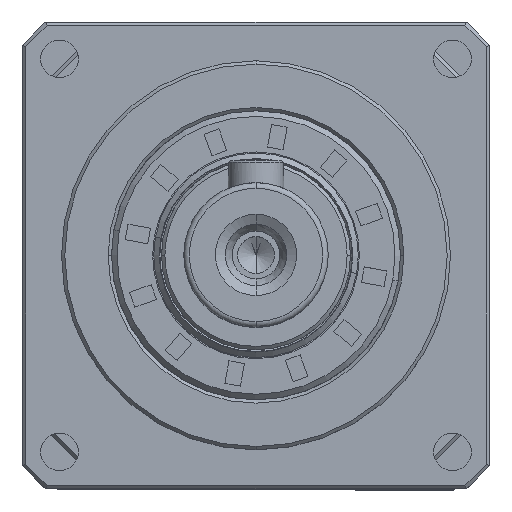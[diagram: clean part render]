
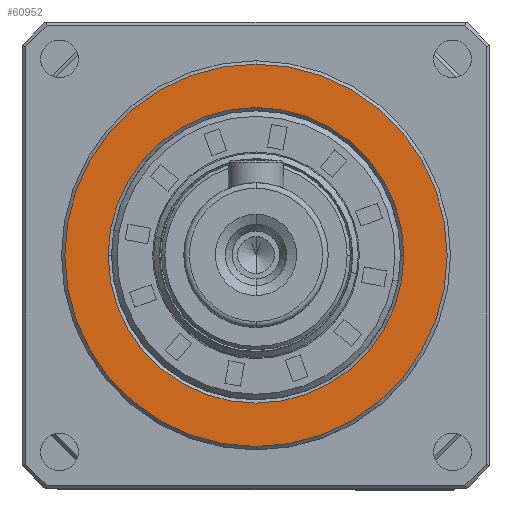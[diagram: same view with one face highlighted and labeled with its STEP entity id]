
A CAD part, top view. The second image highlights one B-rep face of the part: STEP entity #60952.
In plain terms, the highlighted planar face has unit normal (0, 0, 1).
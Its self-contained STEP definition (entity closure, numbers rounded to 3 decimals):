
#8638 = VERTEX_POINT ( 'NONE', #71444 ) ;
#11495 = CIRCLE ( 'NONE', #66649, 13.3 ) ;
#11666 = VERTEX_POINT ( 'NONE', #42926 ) ;
#14802 = CARTESIAN_POINT ( 'NONE',  ( -10.743, 5.01, 58.25 ) ) ;
#16192 = DIRECTION ( 'NONE',  ( 0., 0., -1. ) ) ;
#18509 = ORIENTED_EDGE ( 'NONE', *, *, #24888, .T. ) ;
#18707 = VERTEX_POINT ( 'NONE', #74229 ) ;
#21494 = DIRECTION ( 'NONE',  ( 1., 0., 0. ) ) ;
#21530 = ORIENTED_EDGE ( 'NONE', *, *, #54174, .F. ) ;
#23179 = EDGE_LOOP ( 'NONE', ( #57702, #21530 ) ) ;
#24888 = EDGE_CURVE ( 'NONE', #8638, #11666, #11495, .T. ) ;
#26899 = DIRECTION ( 'NONE',  ( 0., 0., -1. ) ) ;
#32947 = AXIS2_PLACEMENT_3D ( 'NONE', #66736, #26899, #73456 ) ;
#35533 = CARTESIAN_POINT ( 'NONE',  ( -10.743, 5.01, 58.25 ) ) ;
#36092 = DIRECTION ( 'NONE',  ( 0., 0., -1. ) ) ;
#36385 = EDGE_LOOP ( 'NONE', ( #18509, #47303 ) ) ;
#37095 = CARTESIAN_POINT ( 'NONE',  ( -10.743, -12.19, 58.25 ) ) ;
#42206 = DIRECTION ( 'NONE',  ( 1., 0., 0. ) ) ;
#42926 = CARTESIAN_POINT ( 'NONE',  ( -24.043, 5.01, 58.25 ) ) ;
#43119 = EDGE_CURVE ( 'NONE', #11666, #8638, #66225, .T. ) ;
#43718 = AXIS2_PLACEMENT_3D ( 'NONE', #35533, #82023, #42206 ) ;
#45402 = FACE_BOUND ( 'NONE', #36385, .T. ) ;
#46190 = AXIS2_PLACEMENT_3D ( 'NONE', #14802, #61319, #21494 ) ;
#47303 = ORIENTED_EDGE ( 'NONE', *, *, #43119, .T. ) ;
#48597 = PLANE ( 'NONE',  #43718 ) ;
#54174 = EDGE_CURVE ( 'NONE', #76778, #18707, #86350, .T. ) ;
#56067 = CARTESIAN_POINT ( 'NONE',  ( -10.743, 5.01, 58.25 ) ) ;
#56329 = EDGE_CURVE ( 'NONE', #18707, #76778, #77553, .T. ) ;
#57702 = ORIENTED_EDGE ( 'NONE', *, *, #56329, .F. ) ;
#60952 = ADVANCED_FACE ( 'NONE', ( #63065, #45402 ), #48597, .T. ) ;
#61319 = DIRECTION ( 'NONE',  ( 0., 0., -1. ) ) ;
#62733 = DIRECTION ( 'NONE',  ( 1., 0., 0. ) ) ;
#63065 = FACE_OUTER_BOUND ( 'NONE', #23179, .T. ) ;
#66225 = CIRCLE ( 'NONE', #46190, 13.3 ) ;
#66649 = AXIS2_PLACEMENT_3D ( 'NONE', #56067, #16192, #62733 ) ;
#66736 = CARTESIAN_POINT ( 'NONE',  ( -10.743, 5.01, 58.25 ) ) ;
#71444 = CARTESIAN_POINT ( 'NONE',  ( 2.557, 5.01, 58.25 ) ) ;
#73456 = DIRECTION ( 'NONE',  ( 0., 1., 0. ) ) ;
#74229 = CARTESIAN_POINT ( 'NONE',  ( -10.743, 22.21, 58.25 ) ) ;
#75925 = CARTESIAN_POINT ( 'NONE',  ( -10.743, 5.01, 58.25 ) ) ;
#76778 = VERTEX_POINT ( 'NONE', #37095 ) ;
#77553 = CIRCLE ( 'NONE', #32947, 17.2 ) ;
#82023 = DIRECTION ( 'NONE',  ( 0., 0., 1. ) ) ;
#82594 = DIRECTION ( 'NONE',  ( 0., 1., 0. ) ) ;
#85612 = AXIS2_PLACEMENT_3D ( 'NONE', #75925, #36092, #82594 ) ;
#86350 = CIRCLE ( 'NONE', #85612, 17.2 ) ;
